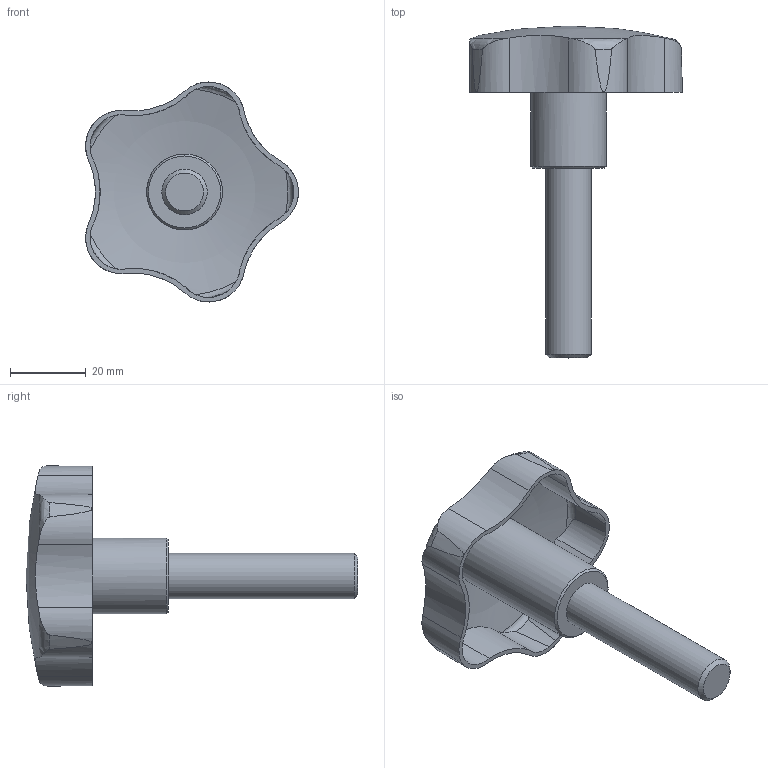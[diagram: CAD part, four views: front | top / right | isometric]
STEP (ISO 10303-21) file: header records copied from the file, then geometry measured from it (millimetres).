
FILE_DESCRIPTION( ( 'STEP AP203' ), '1' );
FILE_NAME( 'C:/Temp/Ganter_Step_05_03_2020/data/2_2/gn_5334_4/gn5334_4_2/Stainless Steel-Star knob with threaded bolt AISI 316L (A4) GN 5334.4-60-M12-50.stp', '2020-03-05T12:08:37', ( 'License CC BY-ND 4.0' ), ( 'CADENAS' ), ' ', 'PARTsolutions', ' ' );
FILE_SCHEMA( ( 'CONFIG_CONTROL_DESIGN' ) );
Length unit declared in the file: millimetre
Products named in the file (1): _Stainless Steel-Star knob with threaded bolt AISI 316L (A4) GN 5334.4-60-M12-50
Bounding box: 56.08 x 87.5 x 57.99 mm (x, y, z)
Volume: 22644.7 mm3; surface area: 13548.3 mm2
Topology: 1 solids, 1 shells, 59 faces, 160 edges, 104 vertices
Faces by surface type: cylinder 32, cone 12, torus 10, plane 3, sphere 2
Full cylindrical faces by diameter (mm): 12 x1, 20 x1
Entity records: 2446 total; most frequent: CARTESIAN_POINT 1037, ORIENTED_EDGE 302, DIRECTION 262, EDGE_CURVE 151, AXIS2_PLACEMENT_3D 121, VERTEX_POINT 102, B_SPLINE_CURVE_WITH_KNOTS 70, EDGE_LOOP 66
